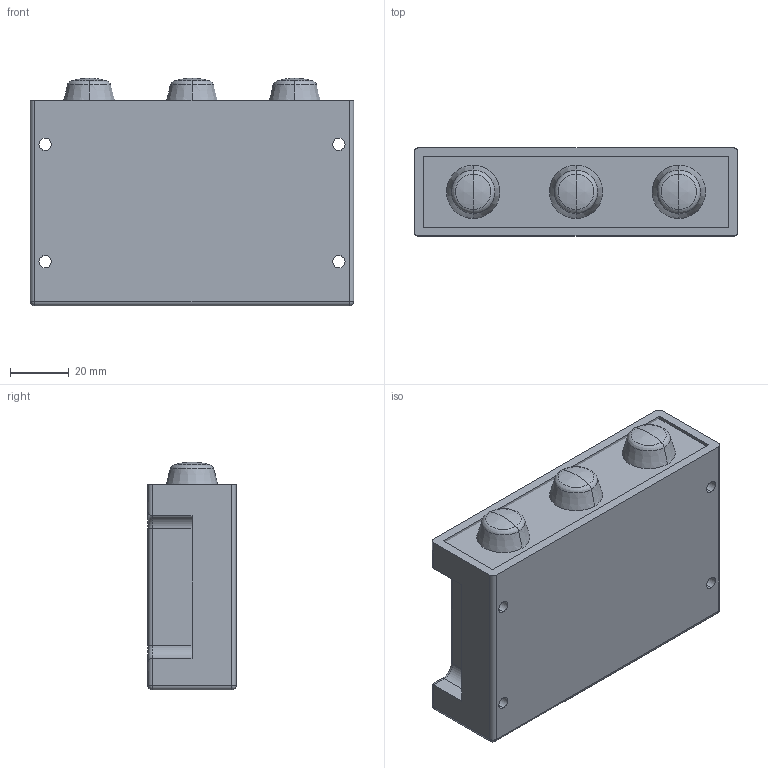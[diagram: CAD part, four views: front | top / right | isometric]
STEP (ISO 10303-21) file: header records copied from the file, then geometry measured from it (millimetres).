
FILE_DESCRIPTION (( 'STEP AP214' ), '1' );
FILE_NAME ('050DSL.STEP', '2019-09-16T07:32:49', ( '' ), ( '' ), 'SwSTEP 2.0', 'SolidWorks 2013', '' );
FILE_SCHEMA (( 'AUTOMOTIVE_DESIGN' ));
Length unit declared in the file: millimetre
Products named in the file (1): 050DSL
Bounding box: 110 x 30 x 77.5 mm (x, y, z)
Volume: 215336.8 mm3; surface area: 35123.9 mm2
Topology: 2 solids, 2 shells, 103 faces, 238 edges, 142 vertices
Faces by surface type: cylinder 34, plane 25, sphere 16, torus 16, cone 12
Entity records: 4090 total; most frequent: DIRECTION 562, CARTESIAN_POINT 492, ORIENTED_EDGE 468, EDGE_CURVE 234, AXIS2_PLACEMENT_3D 228, VERTEX_POINT 142, CIRCLE 124, EDGE_LOOP 118
